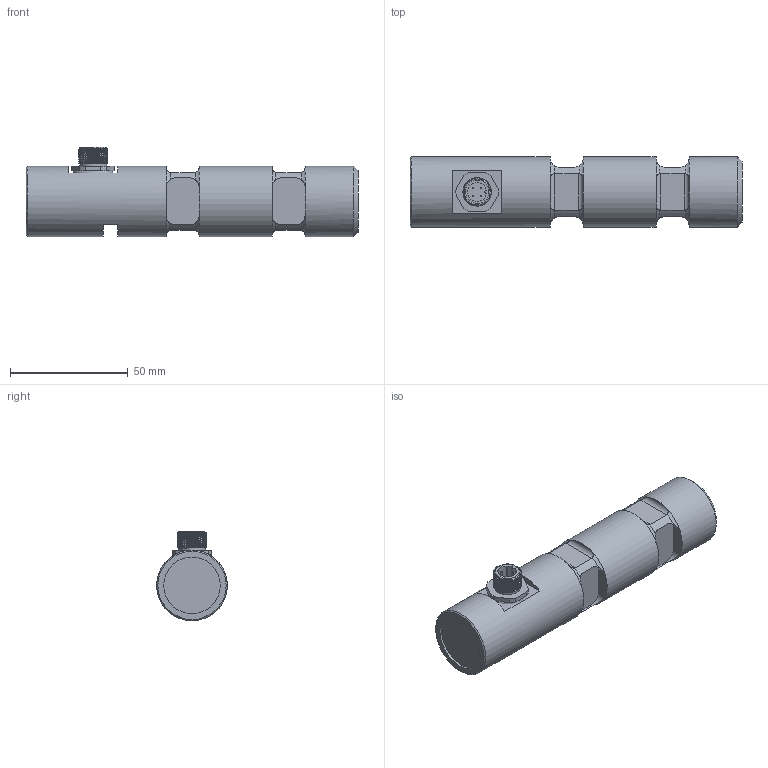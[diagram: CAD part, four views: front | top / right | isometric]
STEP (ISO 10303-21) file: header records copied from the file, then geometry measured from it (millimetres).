
FILE_DESCRIPTION(/* description */ ('Alibre Inc.'),/* implementation_level */ '2;1');
FILE_NAME(/* name */ 'export-B6690ECF-69C0-46DA-9D9D-86BC0A9DEC91',/* time_stamp */ '2019-01-09T11:10:59+01:00',/* author */ (''),/* organization */ (''),/* preprocessor_version */ 'ST-DEVELOPER v17',/* originating_system */ 'Alibre',/* authorisation */ '');
FILE_SCHEMA (('CONFIG_CONTROL_DESIGN'));
Length unit declared in the file: millimetre
Products named in the file (6): ID_1; ID_2; ID_3
Bounding box: 141 x 30 x 38 mm (x, y, z)
Volume: 91360 mm3; surface area: 19312 mm2
Topology: 8 solids, 8 shells, 200 faces, 456 edges, 279 vertices
Faces by surface type: plane 83, cylinder 71, bspline 23, torus 17, cone 6
Full cylindrical faces by diameter (mm): 0.5 x8, 8 x2, 10 x4, 11.5 x1, 13 x1, 14.376 x1, 24 x1, 30 x3
Entity records: 18120 total; most frequent: CARTESIAN_POINT 13943, ORIENTED_EDGE 838, DIRECTION 511, EDGE_CURVE 414, VERTEX_POINT 267, FACE_BOUND 244, EDGE_LOOP 243, AXIS2_PLACEMENT_3D 226
